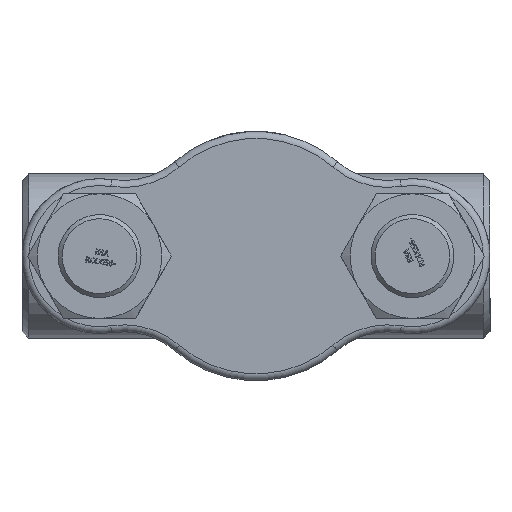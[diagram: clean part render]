
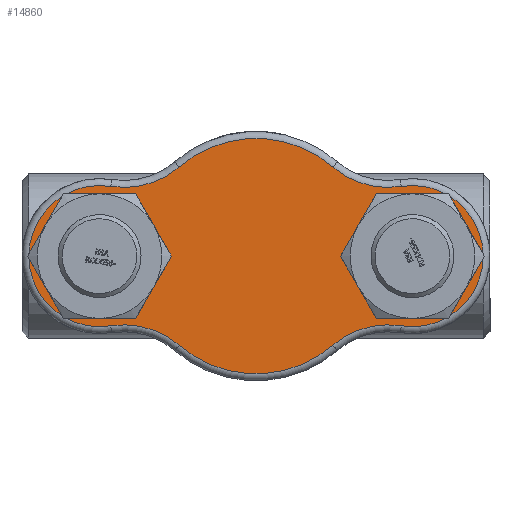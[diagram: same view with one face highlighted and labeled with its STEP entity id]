
A CAD part, front view. The second image highlights one B-rep face of the part: STEP entity #14860.
In plain terms, the highlighted planar face has unit normal (0, -1, 0) as drawn and (0, 0, -1) by its records, which use the part's own axes.
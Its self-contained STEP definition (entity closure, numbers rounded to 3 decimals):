
#3893=PLANE('',#15821);
#4269=FACE_BOUND('',#5236,.T.);
#4270=FACE_BOUND('',#5237,.T.);
#4363=FACE_OUTER_BOUND('',#5235,.T.);
#5235=EDGE_LOOP('',(#10223,#10224,#10225,#10226,#10227,#10228,#10229,#10230));
#5236=EDGE_LOOP('',(#10231));
#5237=EDGE_LOOP('',(#10232));
#6199=CIRCLE('',#15820,36.5);
#6200=CIRCLE('',#15822,51.);
#6201=CIRCLE('',#15823,61.);
#6202=CIRCLE('',#15824,85.);
#6203=CIRCLE('',#15825,61.);
#6204=CIRCLE('',#15826,51.);
#6205=CIRCLE('',#15827,61.);
#6206=CIRCLE('',#15828,85.);
#6207=CIRCLE('',#15829,61.);
#6208=CIRCLE('',#15830,36.5);
#6383=VERTEX_POINT('',#19130);
#6384=VERTEX_POINT('',#19133);
#6385=VERTEX_POINT('',#19134);
#6386=VERTEX_POINT('',#19136);
#6387=VERTEX_POINT('',#19138);
#6388=VERTEX_POINT('',#19140);
#6389=VERTEX_POINT('',#19142);
#6390=VERTEX_POINT('',#19144);
#6391=VERTEX_POINT('',#19146);
#6392=VERTEX_POINT('',#19149);
#7913=EDGE_CURVE('',#6383,#6383,#6199,.T.);
#7914=EDGE_CURVE('',#6384,#6385,#6200,.T.);
#7915=EDGE_CURVE('',#6386,#6384,#6201,.T.);
#7916=EDGE_CURVE('',#6387,#6386,#6202,.T.);
#7917=EDGE_CURVE('',#6388,#6387,#6203,.T.);
#7918=EDGE_CURVE('',#6389,#6388,#6204,.T.);
#7919=EDGE_CURVE('',#6390,#6389,#6205,.T.);
#7920=EDGE_CURVE('',#6391,#6390,#6206,.T.);
#7921=EDGE_CURVE('',#6385,#6391,#6207,.T.);
#7922=EDGE_CURVE('',#6392,#6392,#6208,.T.);
#10223=ORIENTED_EDGE('',*,*,#7914,.F.);
#10224=ORIENTED_EDGE('',*,*,#7915,.F.);
#10225=ORIENTED_EDGE('',*,*,#7916,.F.);
#10226=ORIENTED_EDGE('',*,*,#7917,.F.);
#10227=ORIENTED_EDGE('',*,*,#7918,.F.);
#10228=ORIENTED_EDGE('',*,*,#7919,.F.);
#10229=ORIENTED_EDGE('',*,*,#7920,.F.);
#10230=ORIENTED_EDGE('',*,*,#7921,.F.);
#10231=ORIENTED_EDGE('',*,*,#7922,.F.);
#10232=ORIENTED_EDGE('',*,*,#7913,.F.);
#14860=ADVANCED_FACE('',(#4363,#4269,#4270),#3893,.F.);
#15820=AXIS2_PLACEMENT_3D('',#19131,#16516,#16517);
#15821=AXIS2_PLACEMENT_3D('',#19132,#16518,#16519);
#15822=AXIS2_PLACEMENT_3D('',#19135,#16520,#16521);
#15823=AXIS2_PLACEMENT_3D('',#19137,#16522,#16523);
#15824=AXIS2_PLACEMENT_3D('',#19139,#16524,#16525);
#15825=AXIS2_PLACEMENT_3D('',#19141,#16526,#16527);
#15826=AXIS2_PLACEMENT_3D('',#19143,#16528,#16529);
#15827=AXIS2_PLACEMENT_3D('',#19145,#16530,#16531);
#15828=AXIS2_PLACEMENT_3D('',#19147,#16532,#16533);
#15829=AXIS2_PLACEMENT_3D('',#19148,#16534,#16535);
#15830=AXIS2_PLACEMENT_3D('',#19150,#16536,#16537);
#16516=DIRECTION('center_axis',(0.,0.,-1.));
#16517=DIRECTION('ref_axis',(1.,0.,0.));
#16518=DIRECTION('center_axis',(0.,0.,1.));
#16519=DIRECTION('ref_axis',(1.,0.,0.));
#16520=DIRECTION('center_axis',(0.,0.,1.));
#16521=DIRECTION('ref_axis',(-1.,0.,0.));
#16522=DIRECTION('center_axis',(0.,0.,-1.));
#16523=DIRECTION('ref_axis',(0.273,-0.962,0.));
#16524=DIRECTION('center_axis',(0.,0.,1.));
#16525=DIRECTION('ref_axis',(0.,1.,0.));
#16526=DIRECTION('center_axis',(0.,0.,-1.));
#16527=DIRECTION('ref_axis',(-0.273,-0.962,0.));
#16528=DIRECTION('center_axis',(0.,0.,1.));
#16529=DIRECTION('ref_axis',(1.,0.,0.));
#16530=DIRECTION('center_axis',(0.,0.,-1.));
#16531=DIRECTION('ref_axis',(-0.273,0.962,0.));
#16532=DIRECTION('center_axis',(0.,0.,1.));
#16533=DIRECTION('ref_axis',(0.,-1.,0.));
#16534=DIRECTION('center_axis',(0.,0.,-1.));
#16535=DIRECTION('ref_axis',(0.273,0.962,0.));
#16536=DIRECTION('center_axis',(0.,0.,-1.));
#16537=DIRECTION('ref_axis',(1.,0.,0.));
#19130=CARTESIAN_POINT('',(76.5,0.,0.));
#19131=CARTESIAN_POINT('Origin',(113.,0.,0.));
#19132=CARTESIAN_POINT('Origin',(0.,0.,
0.));
#19133=CARTESIAN_POINT('',(-104.947,50.36,0.));
#19134=CARTESIAN_POINT('',(-104.947,-50.36,0.));
#19135=CARTESIAN_POINT('Origin',(-113.,0.,0.));
#19136=CARTESIAN_POINT('',(-55.491,64.387,0.));
#19137=CARTESIAN_POINT('Origin',(-95.314,110.595,0.));
#19138=CARTESIAN_POINT('',(55.491,64.387,0.));
#19139=CARTESIAN_POINT('Origin',(0.,0.,0.));
#19140=CARTESIAN_POINT('',(104.947,50.36,0.));
#19141=CARTESIAN_POINT('Origin',(95.314,110.595,0.));
#19142=CARTESIAN_POINT('',(104.947,-50.36,0.));
#19143=CARTESIAN_POINT('Origin',(113.,0.,0.));
#19144=CARTESIAN_POINT('',(55.491,-64.387,0.));
#19145=CARTESIAN_POINT('Origin',(95.314,-110.595,0.));
#19146=CARTESIAN_POINT('',(-55.491,-64.387,0.));
#19147=CARTESIAN_POINT('Origin',(0.,0.,0.));
#19148=CARTESIAN_POINT('Origin',(-95.314,-110.595,0.));
#19149=CARTESIAN_POINT('',(-149.5,0.,0.));
#19150=CARTESIAN_POINT('Origin',(-113.,0.,0.));
